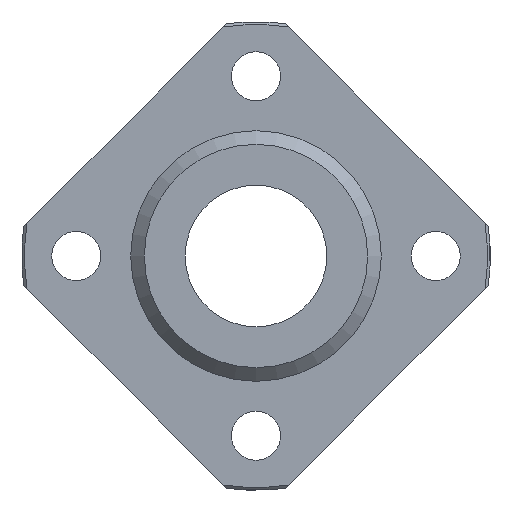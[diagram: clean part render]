
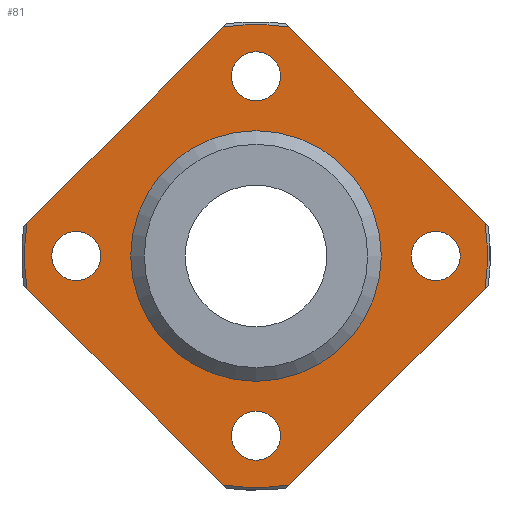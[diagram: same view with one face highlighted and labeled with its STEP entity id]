
A CAD part, left-side view. The second image highlights one B-rep face of the part: STEP entity #81.
In plain terms, the highlighted planar face has unit normal (-1, 0, 0).
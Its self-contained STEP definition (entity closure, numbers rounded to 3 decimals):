
#81=ADVANCED_FACE('',(#124,#125,#126,#127,#128,#129),#130,.F.);
#124=FACE_BOUND('',#218,.T.);
#125=FACE_BOUND('',#219,.T.);
#126=FACE_BOUND('',#220,.T.);
#127=FACE_BOUND('',#221,.T.);
#128=FACE_BOUND('',#222,.T.);
#129=FACE_OUTER_BOUND('',#223,.T.);
#130=PLANE('',#224);
#218=EDGE_LOOP('',(#344));
#219=EDGE_LOOP('',(#345));
#220=EDGE_LOOP('',(#346));
#221=EDGE_LOOP('',(#347));
#222=EDGE_LOOP('',(#348));
#223=EDGE_LOOP('',(#349,#350,#351,#352,#353,#354,#355,#356));
#224=AXIS2_PLACEMENT_3D('',#357,#358,#359);
#344=ORIENTED_EDGE('',*,*,#564,.T.);
#345=ORIENTED_EDGE('',*,*,#565,.T.);
#346=ORIENTED_EDGE('',*,*,#566,.T.);
#347=ORIENTED_EDGE('',*,*,#567,.T.);
#348=ORIENTED_EDGE('',*,*,#559,.T.);
#349=ORIENTED_EDGE('',*,*,#568,.F.);
#350=ORIENTED_EDGE('',*,*,#548,.F.);
#351=ORIENTED_EDGE('',*,*,#538,.F.);
#352=ORIENTED_EDGE('',*,*,#569,.F.);
#353=ORIENTED_EDGE('',*,*,#570,.F.);
#354=ORIENTED_EDGE('',*,*,#571,.F.);
#355=ORIENTED_EDGE('',*,*,#549,.F.);
#356=ORIENTED_EDGE('',*,*,#572,.F.);
#357=CARTESIAN_POINT('',(-9.0,11.5,0.0));
#358=DIRECTION('',(1.0,0.0,0.0));
#359=DIRECTION('',(0.0,0.0,-1.0));
#538=EDGE_CURVE('',#607,#608,#609,.T.);
#548=EDGE_CURVE('',#608,#624,#627,.T.);
#549=EDGE_CURVE('',#628,#629,#630,.T.);
#559=EDGE_CURVE('',#648,#648,#649,.T.);
#564=EDGE_CURVE('',#657,#657,#658,.T.);
#565=EDGE_CURVE('',#659,#659,#660,.T.);
#566=EDGE_CURVE('',#661,#661,#662,.T.);
#567=EDGE_CURVE('',#663,#663,#664,.T.);
#568=EDGE_CURVE('',#624,#665,#666,.T.);
#569=EDGE_CURVE('',#667,#607,#668,.T.);
#570=EDGE_CURVE('',#669,#667,#670,.T.);
#571=EDGE_CURVE('',#629,#669,#671,.T.);
#572=EDGE_CURVE('',#665,#628,#672,.T.);
#607=VERTEX_POINT('',#729);
#608=VERTEX_POINT('',#730);
#609=LINE('',#731,#732);
#624=VERTEX_POINT('',#762);
#627=CIRCLE('',#768,21.246);
#628=VERTEX_POINT('',#769);
#629=VERTEX_POINT('',#770);
#630=LINE('',#771,#772);
#648=VERTEX_POINT('',#805);
#649=CIRCLE('',#806,11.5);
#657=VERTEX_POINT('',#817);
#658=CIRCLE('',#818,2.25);
#659=VERTEX_POINT('',#819);
#660=CIRCLE('',#820,2.25);
#661=VERTEX_POINT('',#821);
#662=CIRCLE('',#822,2.25);
#663=VERTEX_POINT('',#823);
#664=CIRCLE('',#824,2.25);
#665=VERTEX_POINT('',#825);
#666=LINE('',#826,#827);
#667=VERTEX_POINT('',#828);
#668=CIRCLE('',#829,21.246);
#669=VERTEX_POINT('',#830);
#670=LINE('',#831,#832);
#671=CIRCLE('',#833,21.246);
#672=CIRCLE('',#834,21.246);
#729=CARTESIAN_POINT('',(-9.0,-3.01,21.032));
#730=CARTESIAN_POINT('',(-9.0,-21.032,3.01));
#731=CARTESIAN_POINT('',(-9.0,-6.271,17.771));
#732=VECTOR('',#915,1.0);
#762=CARTESIAN_POINT('',(-9.0,-21.032,-3.01));
#768=AXIS2_PLACEMENT_3D('',#922,#923,#924);
#769=CARTESIAN_POINT('',(-9.0,3.01,-21.032));
#770=CARTESIAN_POINT('',(-9.0,21.032,-3.01));
#771=CARTESIAN_POINT('',(-9.0,17.771,-6.271));
#772=VECTOR('',#925,1.0);
#805=CARTESIAN_POINT('',(-9.0,0.0,-11.5));
#806=AXIS2_PLACEMENT_3D('',#935,#936,#937);
#817=CARTESIAN_POINT('',(-9.0,0.0,14.25));
#818=AXIS2_PLACEMENT_3D('',#947,#948,#949);
#819=CARTESIAN_POINT('',(-9.0,0.0,-18.75));
#820=AXIS2_PLACEMENT_3D('',#950,#951,#952);
#821=CARTESIAN_POINT('',(-9.0,16.5,-2.25));
#822=AXIS2_PLACEMENT_3D('',#953,#954,#955);
#823=CARTESIAN_POINT('',(-9.0,-16.5,-2.25));
#824=AXIS2_PLACEMENT_3D('',#956,#957,#958);
#825=CARTESIAN_POINT('',(-9.0,-3.01,-21.032));
#826=CARTESIAN_POINT('',(-9.0,-6.271,-17.771));
#827=VECTOR('',#959,1.0);
#828=CARTESIAN_POINT('',(-9.0,3.01,21.032));
#829=AXIS2_PLACEMENT_3D('',#960,#961,#962);
#830=CARTESIAN_POINT('',(-9.0,21.032,3.01));
#831=CARTESIAN_POINT('',(-9.0,17.771,6.271));
#832=VECTOR('',#963,1.0);
#833=AXIS2_PLACEMENT_3D('',#964,#965,#966);
#834=AXIS2_PLACEMENT_3D('',#967,#968,#969);
#915=DIRECTION('',(0.0,-0.707,-0.707));
#922=CARTESIAN_POINT('',(-9.0,0.0,0.0));
#923=DIRECTION('',(1.0,0.0,0.0));
#924=DIRECTION('',(0.0,0.0,-1.0));
#925=DIRECTION('',(0.0,0.707,0.707));
#935=CARTESIAN_POINT('',(-9.0,0.0,0.0));
#936=DIRECTION('',(1.0,0.0,0.0));
#937=DIRECTION('',(0.0,0.0,-1.0));
#947=CARTESIAN_POINT('',(-9.0,0.0,16.5));
#948=DIRECTION('',(1.0,0.0,0.0));
#949=DIRECTION('',(0.0,0.0,-1.0));
#950=CARTESIAN_POINT('',(-9.0,0.0,-16.5));
#951=DIRECTION('',(1.0,0.0,0.0));
#952=DIRECTION('',(0.0,0.0,-1.0));
#953=CARTESIAN_POINT('',(-9.0,16.5,0.0));
#954=DIRECTION('',(1.0,0.0,0.0));
#955=DIRECTION('',(0.0,0.0,-1.0));
#956=CARTESIAN_POINT('',(-9.0,-16.5,0.0));
#957=DIRECTION('',(1.0,0.0,0.0));
#958=DIRECTION('',(0.0,0.0,-1.0));
#959=DIRECTION('',(0.0,0.707,-0.707));
#960=CARTESIAN_POINT('',(-9.0,0.0,0.0));
#961=DIRECTION('',(1.0,0.0,0.0));
#962=DIRECTION('',(0.0,0.0,-1.0));
#963=DIRECTION('',(0.0,-0.707,0.707));
#964=CARTESIAN_POINT('',(-9.0,0.0,0.0));
#965=DIRECTION('',(1.0,0.0,0.0));
#966=DIRECTION('',(0.0,0.0,-1.0));
#967=CARTESIAN_POINT('',(-9.0,0.0,0.0));
#968=DIRECTION('',(1.0,0.0,0.0));
#969=DIRECTION('',(0.0,0.0,-1.0));
